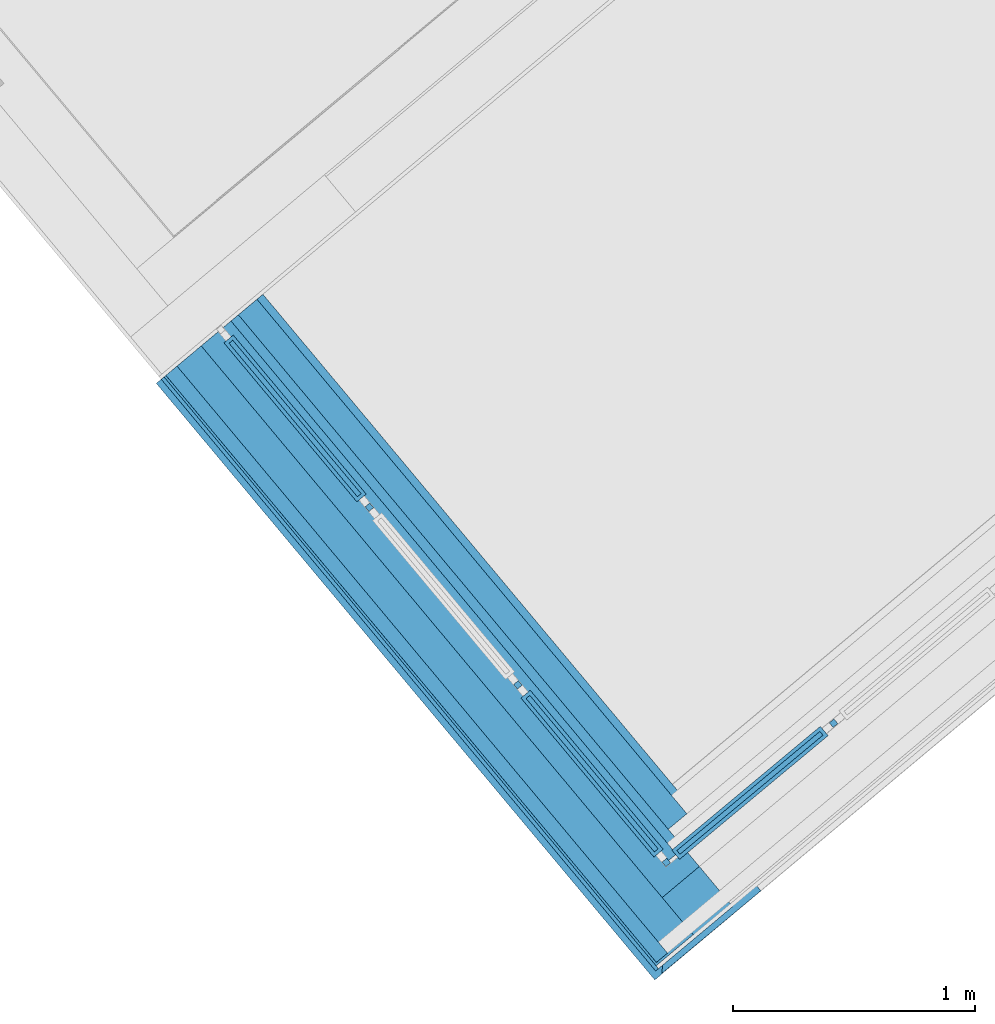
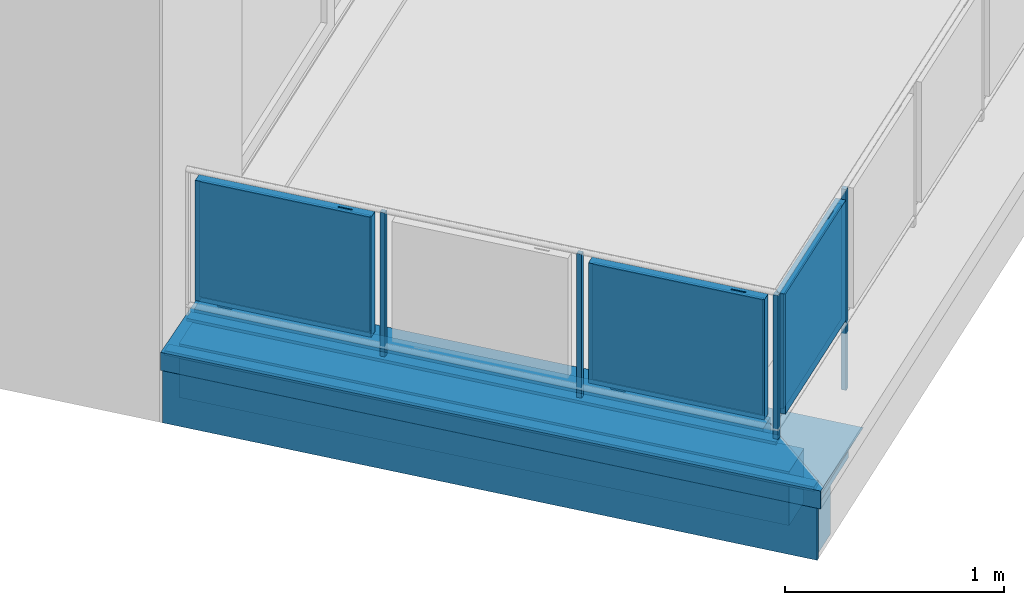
# One storey, part 9 of 47: 19 building element parts, 2 elements without a shape of their own.
"""IFC4 building model written with IfcOpenShell, lengths in metres."""

import ifcopenshell
import ifcopenshell.guid

model = None  # the IFC model being written
_history = None  # IfcOwnerHistory: only IFC2X3 demands one
_inside = {}  # id of a spatial element -> (the spatial element, [elements in it])
_under = {}  # id of a project, library or spatial element -> (it, [spatial elements below it])
_declared = {}  # id of a project -> (the project, [libraries it declares])
_typed = {}  # id of a type object -> (the type object, [elements of that type])
_made_of = {}  # id of a material, layer set ... -> (it, [elements and type objects made of it])


def new_model(schema):
    """Start an empty IFC model of exactly this schema.

    Asked for "IFC4X3", IfcOpenShell would pick the latest addendum, in which some entities
    have other attributes; the version numbers below select the first issue.
    IFC2X3 requires an IfcOwnerHistory on every rooted entity: one is made here for all.
    """
    global model, _history
    if schema == "IFC4X3":
        model = ifcopenshell.file(schema_version=(4, 3, 0, 0))
    else:
        model = ifcopenshell.file(schema=schema)
    _inside.clear()
    _under.clear()
    _declared.clear()
    _typed.clear()
    _made_of.clear()
    _history = None
    if model.schema == "IFC2X3":
        org = make("IfcOrganization", Name="unknown")
        user = make(
            "IfcPersonAndOrganization",
            ThePerson=make("IfcPerson", FamilyName="unknown"),
            TheOrganization=org,
        )
        app = make(
            "IfcApplication",
            ApplicationDeveloper=org,
            Version="unknown",
            ApplicationFullName="unknown",
            ApplicationIdentifier="unknown",
        )
        _history = make(
            "IfcOwnerHistory",
            OwningUser=user,
            OwningApplication=app,
            ChangeAction="ADDED",
            CreationDate=0,
        )
    return model


def make(cls, **values):
    """One entity of the class cls with the attributes given. An attribute that is None is left unset."""
    return model.create_entity(
        cls, **{name: value for name, value in values.items() if value is not None}
    )


def entity(cls, *values):
    """Any entity or typed value of the class cls, its attributes in the order of the schema. None: left unset."""
    e = model.create_entity(cls)
    for i, value in enumerate(values):
        if value is not None:
            e[i] = value
    return e


def rooted(cls, **values):
    """An entity with a GlobalId (a new one), such as an element, a storey or a relation."""
    return make(cls, GlobalId=ifcopenshell.guid.new(), OwnerHistory=_history, **values)


def si_unit(unit_type, name, prefix=None):
    """IfcSIUnit, for example si_unit("LENGTHUNIT", "METRE", prefix="MILLI")."""
    return make("IfcSIUnit", UnitType=unit_type, Prefix=prefix, Name=name)


def converted_unit(unit_type, name, factor, base, dimensions=None, offset=None):
    """IfcConversionBasedUnit, such as the inch: factor (a typed value) times the base unit."""
    return make(
        "IfcConversionBasedUnit"
        if offset is None
        else "IfcConversionBasedUnitWithOffset",
        ConversionOffset=offset,
        Dimensions=None
        if dimensions is None
        else entity("IfcDimensionalExponents", *dimensions),
        UnitType=unit_type,
        Name=name,
        ConversionFactor=make(
            "IfcMeasureWithUnit", ValueComponent=factor, UnitComponent=base
        ),
    )


def derived_unit(unit_type, elements):
    """IfcDerivedUnit: a product of units, each with its exponent."""
    return make(
        "IfcDerivedUnit",
        Elements=[
            make("IfcDerivedUnitElement", Unit=unit, Exponent=power)
            for unit, power in elements
        ],
        UnitType=unit_type,
    )


def assignment(units):
    """IfcUnitAssignment: the units of a project."""
    return None if units is None else make("IfcUnitAssignment", Units=units)


def point(xyz):
    """IfcCartesianPoint."""
    return None if xyz is None else make("IfcCartesianPoint", Coordinates=xyz)


def direction(xyz):
    """IfcDirection."""
    return None if xyz is None else make("IfcDirection", DirectionRatios=xyz)


def frame(location, z_axis=None, x_axis=None):
    """IfcAxis2Placement3D, a coordinate frame: its origin and axes. An axis left out is left unset."""
    return make(
        "IfcAxis2Placement3D",
        Location=point(location),
        Axis=direction(z_axis),
        RefDirection=direction(x_axis),
    )


def origin_with_axes():
    """The frame at (0, 0, 0) with the z axis (0, 0, 1) and the x axis (1, 0, 0) written out."""
    return frame((0.0, 0.0, 0.0), z_axis=(0.0, 0.0, 1.0), x_axis=(1.0, 0.0, 0.0))


def place(relative_to, where):
    """IfcLocalPlacement: puts the frame where relative to a parent placement (None: the world)."""
    return make(
        "IfcLocalPlacement", PlacementRelTo=relative_to, RelativePlacement=where
    )


def context(
    kind, dimensions, precision=None, world=None, true_north=None, identifier=None
):
    """IfcGeometricRepresentationContext, for example the 3D "Model" context."""
    return make(
        "IfcGeometricRepresentationContext",
        ContextIdentifier=identifier,
        ContextType=kind,
        CoordinateSpaceDimension=dimensions,
        Precision=precision,
        WorldCoordinateSystem=world,
        TrueNorth=true_north,
    )


def subcontext(parent, identifier, kind, view, scale=None):
    """IfcGeometricRepresentationSubContext, for example "Body" below "Model"."""
    return make(
        "IfcGeometricRepresentationSubContext",
        ContextIdentifier=identifier,
        ContextType=kind,
        ParentContext=parent,
        TargetScale=scale,
        TargetView=view,
    )


def project(units=None, contexts=None):
    """IfcProject with its units and contexts."""
    return rooted(
        "IfcProject",
        Name="project",
        RepresentationContexts=contexts,
        UnitsInContext=assignment(units),
    )


def spatial(cls, under=None, at=None, **own):
    """A site, building, storey or space (cls), placed at a placement, below another one or the project."""
    s = rooted(cls, ObjectPlacement=at, **own)
    if under is not None:
        _under.setdefault(under.id(), (under, []))[1].append(s)
    return s


def point_list(points):
    """IfcCartesianPointList2D or 3D."""
    cls = (
        "IfcCartesianPointList2D" if len(points[0]) == 2 else "IfcCartesianPointList3D"
    )
    return make(cls, CoordList=points)


def polygons(points, faces, closed=None, point_numbers=None):
    """IfcPolygonalFaceSet: a face is its outer loop, then its inner loops; points numbered from 1."""
    made = []
    for loops in faces:
        if len(loops) == 1:
            made.append(make("IfcIndexedPolygonalFace", CoordIndex=loops[0]))
        else:
            made.append(
                make(
                    "IfcIndexedPolygonalFaceWithVoids",
                    CoordIndex=loops[0],
                    InnerCoordIndices=loops[1:],
                )
            )
    return make(
        "IfcPolygonalFaceSet",
        Coordinates=point_list(points),
        Closed=closed,
        Faces=made,
        PnIndex=point_numbers,
    )


def shape(context_of_items, identifier, shape_type, items):
    """IfcShapeRepresentation: the items that make up one representation, for example the "Body"."""
    return make(
        "IfcShapeRepresentation",
        ContextOfItems=context_of_items,
        RepresentationIdentifier=identifier,
        RepresentationType=shape_type,
        Items=items,
    )


def material(Name=None, Category=None):
    """IfcMaterial."""
    return make("IfcMaterial", Name=Name, Category=Category)


def made_of(thing, what):
    """Note that an element or type object is made of a material, layer set ...; save() writes the relation."""
    if what is not None:
        _made_of.setdefault(what.id(), (what, []))[1].append(thing)
    return thing


def type_object(cls, material=None, **own):
    """A type object (cls), such as IfcWallType, which elements share."""
    return made_of(rooted(cls, **own), material)


def element(
    cls,
    number,
    at=None,
    inside=None,
    cuts=None,
    type_object=None,
    material=None,
    context=None,
    identifier="Body",
    shape_type=None,
    held_by="IfcProductDefinitionShape",
    body=None,
    shapes=None,
    **own,
):
    """One element of the class cls, such as IfcWall. Its Tag is "e" and its number.

    at: its placement. inside: the storey or other place that contains it. cuts: it is an
    opening in that element (IfcRelVoidsElement). A single representation is given by context,
    identifier, shape_type and body (its items); several are given by shapes. held_by: the class
    of the entity that holds the representations. save() writes the other relations.
    """
    e = rooted(cls, Tag="e%d" % number, ObjectPlacement=at, **own)
    if body is not None:
        shapes = [shape(context, identifier, shape_type, body)]
    if shapes is not None:
        e.Representation = make(held_by, Representations=shapes)
    if inside is not None:
        _inside.setdefault(inside.id(), (inside, []))[1].append(e)
    if cuts is not None:
        rooted(
            "IfcRelVoidsElement", RelatingBuildingElement=cuts, RelatedOpeningElement=e
        )
    if type_object is not None:
        _typed.setdefault(type_object.id(), (type_object, []))[1].append(e)
    return made_of(e, material)


def aggregate(whole, parts):
    """IfcRelAggregates: a whole, such as a stair, and the parts it consists of."""
    return rooted("IfcRelAggregates", RelatingObject=whole, RelatedObjects=parts)


def save(model, path):
    """Write the relations noted so far, then the file.

    IfcRelAggregates (storeys below a building ...), IfcRelContainedInSpatialStructure (elements
    in a storey), IfcRelDefinesByType, IfcRelAssociatesMaterial and IfcRelDeclares: one each for
    every whole, place, type object, material and project.
    """
    for whole, parts in _under.values():
        aggregate(whole, parts)
    for where, things in _inside.values():
        rooted(
            "IfcRelContainedInSpatialStructure",
            RelatedElements=things,
            RelatingStructure=where,
        )
    for kind, things in _typed.values():
        rooted("IfcRelDefinesByType", RelatedObjects=things, RelatingType=kind)
    for what, things in _made_of.values():
        rooted("IfcRelAssociatesMaterial", RelatedObjects=things, RelatingMaterial=what)
    for by, libraries in _declared.values():
        rooted("IfcRelDeclares", RelatingContext=by, RelatedDefinitions=libraries)
    model.write(path)


model = new_model("IFC4")

# Units and contexts
model_context = context("Model", 3, precision=1e-05, world=origin_with_axes(), true_north=direction((0.0, 1.0)))
body_context = subcontext(model_context, "Body", "Model", "MODEL_VIEW")
ifc_project = project(units=[si_unit("LENGTHUNIT", "METRE"), si_unit("AREAUNIT", "SQUARE_METRE"), si_unit("VOLUMEUNIT", "CUBIC_METRE"), converted_unit("PLANEANGLEUNIT", "DEGREE", entity("IfcPlaneAngleMeasure", 0.0174532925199), si_unit("PLANEANGLEUNIT", "RADIAN"), dimensions=[0, 0, 0, 0, 0, 0, 0]), converted_unit("TIMEUNIT", "Year", entity("IfcTimeMeasure", 31556926.0), si_unit("TIMEUNIT", "SECOND"), dimensions=[0, 0, 1, 0, 0, 0, 0]), si_unit("MASSUNIT", "GRAM", prefix="KILO"), si_unit("THERMODYNAMICTEMPERATUREUNIT", "DEGREE_CELSIUS"), si_unit("LUMINOUSINTENSITYUNIT", "LUMEN"), si_unit("ENERGYUNIT", "JOULE", prefix="MEGA"), derived_unit("THERMALCONDUCTANCEUNIT", [(si_unit("POWERUNIT", "WATT"), 1), (si_unit("LENGTHUNIT", "METRE"), -1), (si_unit("THERMODYNAMICTEMPERATUREUNIT", "KELVIN"), -1)]), derived_unit("SPECIFICHEATCAPACITYUNIT", [(si_unit("ENERGYUNIT", "JOULE"), 1), (si_unit("MASSUNIT", "GRAM", prefix="KILO"), -1), (si_unit("THERMODYNAMICTEMPERATUREUNIT", "KELVIN"), -1)]), derived_unit("MASSDENSITYUNIT", [(si_unit("MASSUNIT", "GRAM", prefix="KILO"), 1), (si_unit("VOLUMEUNIT", "CUBIC_METRE"), -1)])], contexts=[model_context])

# Site, building, storey
site_placement = place(None, frame((-0.00153261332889, -0.00661245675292, 0.0), z_axis=(0.0, 0.0, 1.0), x_axis=(1.0, 0.0, 0.0)))
site = spatial("IfcSite", under=ifc_project, at=site_placement, Name="Site", CompositionType="ELEMENT")
building_placement = place(site_placement, origin_with_axes())
building = spatial("IfcBuilding", under=site, at=building_placement, Name="Building", CompositionType="ELEMENT")
storey_placement = place(building_placement, frame((0.0, 0.0, 8.66), z_axis=(0.0, 0.0, 1.0), x_axis=(1.0, 0.0, 0.0)))
storey = spatial("IfcBuildingStorey", under=building, at=storey_placement, Name="DG2", CompositionType="ELEMENT", Elevation=8.66)

# Wall, building element parts
wall_type = type_object("IfcWallType", Name="Bauteil - Attika Terrasse 1.DG 574 x 410", PredefinedType="NOTDEFINED")
wall_placement = place(storey_placement, frame((-3.13402571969, 12.7128231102, -0.2), z_axis=(0.0, 0.0, 1.0), x_axis=(0.641209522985, -0.767365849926, 0.0)))
wall = element("IfcWall", 1, at=wall_placement, inside=storey, type_object=wall_type, Name="Wand-004", PredefinedType="NOTDEFINED")
ifc_material_1 = material(Name="Stahl")
building_element_part_1_placement = place(wall_placement, origin_with_axes())
building_element_part_1 = element("IfcBuildingElementPart", 2, at=building_element_part_1_placement, material=ifc_material_1, Name="Stahl", PredefinedType="NOTDEFINED", context=body_context, shape_type="Tessellation", body=[
    polygons([(3.20965495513, -0.241500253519, 0.510007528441), (3.20869704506, -0.240542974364, 0.50905023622), (3.2096537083, -0.239585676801, 0.510007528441), (0.0, -0.241500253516, 0.510007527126), (0.0, -0.240542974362, 0.509050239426), (0.0, -0.231373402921, 0.518219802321), (3.20143607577, -0.23137340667, 0.518219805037), (3.20829902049, -0.238231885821, 0.511361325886), (3.20965282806, -0.238231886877, 0.511361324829), (3.20965406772, -0.240146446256, 0.51136132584), (3.20965407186, -0.240152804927, 0.608602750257), (3.20962970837, -0.202730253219, 0.608602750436), (3.20965495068, -0.241500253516, 0.610006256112), (0.0, -0.241500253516, 0.610006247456), (0.0, 0.332051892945, 0.589243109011), (0.0, 0.332051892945, 0.489652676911), (0.0, 0.331094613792, 0.488695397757), (0.0, 0.321878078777, 0.497911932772), (0.0, 0.32288233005, 0.498822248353), (0.0, 0.330698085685, 0.491006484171), (0.0, 0.330698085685, 0.587937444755), (0.0, -0.239276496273, 0.608570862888), (0.0, -0.240152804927, 0.608602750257), (0.0, -0.240146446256, 0.51136132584), (0.0, -0.232283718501, 0.519224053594), (3.20043242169, -0.23228372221, 0.519224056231), (3.20830026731, -0.24014644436, 0.511361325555), (3.20830663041, -0.240152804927, 0.608602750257), (3.20828225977, -0.202730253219, 0.608602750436), (3.20740537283, -0.201849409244, 0.608570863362), (2.67312039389, 0.332051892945, 0.589243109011), (2.63708299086, 0.332051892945, 0.587938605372), (2.63708298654, 0.332051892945, 0.586106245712), (2.63708298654, 0.332051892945, 0.584015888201), (2.63708298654, 0.332051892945, 0.575979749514), (2.63708298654, 0.332051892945, 0.573880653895), (2.63708298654, 0.332051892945, 0.567947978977), (2.63708298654, 0.332051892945, 0.559999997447), (2.63708298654, 0.332051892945, 0.519224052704), (2.63708298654, 0.332051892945, 0.511361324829), (2.63708298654, 0.332051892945, 0.50905023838), (2.63708298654, 0.332051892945, 0.499999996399), (2.63708298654, 0.332051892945, 0.498822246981), (2.63708298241, 0.332051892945, 0.491006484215), (2.63899754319, 0.332051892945, 0.49100648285), (2.63764373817, 0.332051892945, 0.489652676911), (2.63668708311, 0.331094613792, 0.488695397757), (2.6389996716, 0.328783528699, 0.49100648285), (2.64590961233, 0.32187807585, 0.497911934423), (2.64490470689, 0.322882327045, 0.498822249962), (2.6459083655, 0.323792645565, 0.497911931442), (2.63899842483, 0.330698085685, 0.491006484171), (2.63708386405, 0.330698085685, 0.491006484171), (2.63708386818, 0.330698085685, 0.498822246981), (2.63708386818, 0.330698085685, 0.499999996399), (2.63708386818, 0.330698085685, 0.50905023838), (2.63708386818, 0.330698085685, 0.511361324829), (2.63708386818, 0.330698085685, 0.519224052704), (2.63708386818, 0.330698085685, 0.559999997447), (2.63708386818, 0.330698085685, 0.567947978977), (2.63708386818, 0.330698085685, 0.573880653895), (2.63708386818, 0.330698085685, 0.575979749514), (2.63708386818, 0.330698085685, 0.584015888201), (2.63708386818, 0.330698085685, 0.586106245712), (2.63708391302, 0.330698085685, 0.587937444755), (3.20742974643, -0.239276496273, 0.608570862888), (2.63708389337, 0.330666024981, 0.587938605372)], [[[1, 2, 3]], [[1, 4, 5, 2]], [[2, 5, 6, 7, 8, 9, 3]], [[1, 3, 9, 10, 11, 12, 13]], [[4, 1, 13, 14]], [[5, 4, 14, 15, 16, 17, 18, 19, 20, 21, 22, 23, 24, 25, 6]], [[25, 26, 7, 6]], [[26, 27, 8, 7]], [[27, 10, 9, 8]], [[28, 11, 10, 27, 24, 23]], [[11, 28, 29, 12]], [[14, 13, 12, 29, 30, 31, 15]], [[16, 15, 31, 32, 33, 34, 35, 36, 37, 38, 39, 40, 41, 42, 43, 44, 45, 46]], [[17, 16, 46, 47]], [[18, 17, 47, 48, 49]], [[19, 18, 49, 50]], [[20, 19, 50, 51, 52, 53]], [[21, 20, 53, 54, 55, 56, 57, 58, 59, 60, 61, 62, 63, 64, 65]], [[66, 22, 21, 65, 67]], [[66, 28, 23, 22]], [[27, 26, 25, 24]], [[28, 66, 30, 29]], [[30, 66, 67, 65, 32, 31]], [[65, 64, 33, 32]], [[64, 63, 34, 33]], [[63, 62, 35, 34]], [[62, 61, 36, 35]], [[61, 60, 37, 36]], [[60, 59, 38, 37]], [[59, 58, 39, 38]], [[58, 57, 40, 39]], [[57, 56, 41, 40]], [[56, 55, 42, 41]], [[55, 54, 43, 42]], [[53, 44, 43, 54]], [[44, 53, 52, 45]], [[52, 48, 47, 46, 45]], [[51, 49, 48, 52]], [[49, 51, 50]]], closed=True),
])
ifc_material_2 = material(Name="Holzwerkstoff")
building_element_part_2_placement = place(wall_placement, origin_with_axes())
building_element_part_2 = element("IfcBuildingElementPart", 3, at=building_element_part_2_placement, material=ifc_material_2, Name="Holzwerkstoff", PredefinedType="NOTDEFINED", context=body_context, shape_type="Tessellation", body=[
    polygons([(3.20742974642, -0.239276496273, 0.608570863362), (3.207779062, 0.330698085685, 0.587938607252), (0.0, 0.330698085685, 0.587938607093), (0.0, -0.239276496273, 0.608570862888), (3.20815071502, -0.239996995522, 0.587938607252), (3.20778206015, 0.33069508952, 0.587852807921), (3.15776701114, 0.330634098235, 0.586106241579), (3.09790711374, 0.330561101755, 0.584015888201), (2.86778226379, 0.330280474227, 0.575979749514), (2.8076720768, 0.330207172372, 0.573880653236), (2.63778240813, 0.329999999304, 0.567947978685), (0.0, 0.329999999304, 0.567947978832), (0.0, 0.160110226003, 0.573880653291), (0.0, 0.100000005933, 0.575979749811), (0.0, -0.130124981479, 0.584015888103), (0.0, -0.189984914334, 0.586106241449), (0.0, -0.239999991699, 0.587852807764), (3.20815371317, -0.239999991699, 0.587852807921), (3.15810605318, -0.189984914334, 0.586106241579), (3.09820712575, -0.130124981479, 0.584015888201), (2.86793222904, 0.100000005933, 0.575979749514), (2.80778284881, 0.160110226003, 0.573880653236)], [[[1, 2, 3, 4]], [[5, 2, 1]], [[3, 2, 6, 7, 8, 9, 10, 11, 12]], [[4, 3, 12, 13, 14, 15, 16, 17]], [[5, 1, 4, 17, 18]], [[2, 5, 18, 6]], [[18, 19, 7, 6]], [[20, 8, 7, 19]], [[8, 20, 21, 9]], [[21, 22, 10, 9]], [[22, 11, 10]], [[11, 22, 13, 12]], [[21, 14, 13, 22]], [[20, 15, 14, 21]], [[20, 19, 16, 15]], [[17, 16, 19, 18]]], closed=True),
])
ifc_material_3 = material(Name="EPS 1")
building_element_part_3_placement = place(wall_placement, origin_with_axes())
building_element_part_3 = element("IfcBuildingElementPart", 4, at=building_element_part_3_placement, material=ifc_material_3, Name="EPS 1", PredefinedType="NOTDEFINED", context=body_context, shape_type="Tessellation", body=[
    polygons([(2.76786708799, 0.2, 0.559999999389), (2.76780196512, 0.3, 0.559999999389), (0.0, 0.3, 0.560000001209), (0.0, 0.2, 0.560000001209), (2.76780196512, 0.3, 0.519224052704), (2.76786708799, 0.2, 0.519224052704), (2.76780196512, 0.3, 0.511361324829), (2.76780196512, 0.3, 0.50905023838), (2.76780196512, 0.299999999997, 0.500000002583), (2.76780196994, 0.3, 0.498822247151), (2.76780196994, 0.3, 0.49100648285), (2.76780196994, 0.3, 0.488695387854), (2.76780196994, 0.3, 0.335), (0.0, 0.3, 0.335), (0.0, 0.2, 0.335), (2.76786709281, 0.2, 0.335), (2.76786709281, 0.2, 0.488695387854), (2.76786709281, 0.2, 0.49100648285), (2.76786709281, 0.2, 0.498822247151), (2.76786708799, 0.199999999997, 0.500000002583), (2.76786708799, 0.2, 0.50905023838), (2.76786708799, 0.2, 0.511361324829)], [[[1, 2, 3, 4]], [[5, 2, 1, 6]], [[2, 5, 7, 8, 9, 10, 11, 12, 13, 14, 3]], [[15, 4, 3, 14]], [[6, 1, 4, 15, 16, 17, 18, 19, 20, 21, 22]], [[5, 6, 22, 7]], [[7, 22, 21, 8]], [[8, 21, 20, 9]], [[9, 20, 19, 10]], [[10, 19, 18, 11]], [[11, 18, 17, 12]], [[12, 17, 16, 13]], [[13, 16, 15, 14]]], closed=True),
])
ifc_material_4 = material(Name="Vollholz")
building_element_part_4_placement = place(wall_placement, origin_with_axes())
building_element_part_4 = element("IfcBuildingElementPart", 5, at=building_element_part_4_placement, material=ifc_material_4, Name="Vollholz", PredefinedType="NOTDEFINED", context=body_context, shape_type="Tessellation", body=[
    polygons([(2.86793222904, 0.1, 0.575979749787), (2.86789308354, 0.160110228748, 0.573880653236), (0.0, 0.160110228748, 0.573880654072), (0.0, 0.1, 0.575979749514), (2.86793222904, 0.1, 0.573880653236), (2.86789311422, 0.160063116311, 0.567947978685), (2.86789315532, 0.16, 0.559999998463), (0.0, 0.16, 0.560000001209), (0.0, 0.1, 0.560000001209), (2.86793222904, 0.1, 0.559999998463), (2.86793222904, 0.1, 0.567947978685)], [[[1, 2, 3, 4]], [[5, 2, 1]], [[2, 6, 7, 8, 3]], [[8, 9, 4, 3]], [[5, 1, 4, 9, 10, 11]], [[2, 5, 11, 6]], [[6, 11, 10, 7]], [[7, 10, 9, 8]]], closed=True),
])
ifc_material_5 = material(Name="Stahlbeton")
building_element_part_5_placement = place(wall_placement, origin_with_axes())
building_element_part_5 = element("IfcBuildingElementPart", 6, at=building_element_part_5_placement, material=ifc_material_5, Name="Stahlbeton", PredefinedType="NOTDEFINED", context=body_context, shape_type="Tessellation", body=[
    polygons([(2.96799738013, 1.82835346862e-09, 0.499999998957), (2.96786713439, 0.199999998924, 0.499999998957), (0.0, 0.199999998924, 0.500000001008), (0.0, 1.82835524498e-09, 0.500000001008), (2.96786713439, 0.199999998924, 0.498822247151), (2.96799738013, 1.82835524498e-09, 0.498822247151), (2.96786713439, 0.199999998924, 0.49100648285), (2.96786713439, 0.199999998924, 0.488695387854), (2.96786713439, 0.199999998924, 0.335), (0.0, 0.199999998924, 0.335000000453), (0.0, 1.82835524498e-09, 0.2), (0.0, 0.199999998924, 0.2), (2.96799738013, 1.8283543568e-09, 0.2), (2.96799738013, 1.8283543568e-09, 0.335), (2.96799738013, 1.82835524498e-09, 0.488695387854), (2.96799738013, 1.82835524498e-09, 0.49100648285), (2.96786713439, 0.199999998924, 0.2)], [[[1, 2, 3, 4]], [[5, 2, 1, 6]], [[2, 5, 7, 8, 9, 10, 3]], [[11, 4, 3, 10, 12]], [[6, 1, 4, 11, 13, 14, 15, 16]], [[5, 6, 16, 7]], [[7, 16, 15, 8]], [[8, 15, 14, 9]], [[9, 17, 12, 10]], [[17, 13, 11, 12]], [[9, 14, 13, 17]]], closed=True),
])
building_element_part_6_placement = place(wall_placement, origin_with_axes())
building_element_part_6 = element("IfcBuildingElementPart", 7, at=building_element_part_6_placement, material=ifc_material_3, Name="EPS 1", PredefinedType="NOTDEFINED", context=body_context, shape_type="Tessellation", body=[
    polygons([(3.16812762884, -0.19999996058, 0.499999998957), (3.16799738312, -2.39910313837e-10, 0.499999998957), (0.0, -2.39910313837e-10, 0.499999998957), (0.0, -0.19999996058, 0.499999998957), (3.16799738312, -2.39910313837e-10, 0.498822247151), (3.16812762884, -0.19999996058, 0.498822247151), (3.16799738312, -2.39910313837e-10, 0.49100648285), (3.16799738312, -2.39910313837e-10, 0.488695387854), (3.16799738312, -2.39910313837e-10, 0.335), (3.16799738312, -2.39909425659e-10, 0.2), (0.0, -2.39910313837e-10, 0.2), (0.0, -0.19999996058, 0.2), (3.16812762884, -0.19999996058, 0.2), (3.16812762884, -0.19999996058, 0.335), (3.16812762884, -0.19999996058, 0.488695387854), (3.16812762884, -0.19999996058, 0.49100648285)], [[[1, 2, 3, 4]], [[5, 2, 1, 6]], [[2, 5, 7, 8, 9, 10, 11, 3]], [[12, 4, 3, 11]], [[6, 1, 4, 12, 13, 14, 15, 16]], [[5, 6, 16, 7]], [[7, 16, 15, 8]], [[8, 15, 14, 9]], [[9, 14, 13, 10]], [[10, 13, 12, 11]]], closed=True),
])
building_element_part_7_placement = place(wall_placement, origin_with_axes())
building_element_part_7 = element("IfcBuildingElementPart", 8, at=building_element_part_7_placement, material=ifc_material_4, Name="Vollholz", PredefinedType="NOTDEFINED", context=body_context, shape_type="Tessellation", body=[
    polygons([(3.15810605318, -0.189984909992, 0.586106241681), (3.158078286, -0.130124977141, 0.584015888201), (0.0, -0.130124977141, 0.584015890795), (0.0, -0.189984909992, 0.586106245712), (3.15811727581, -0.189996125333, 0.584015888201), (3.15812140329, -0.130124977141, 0.575979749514), (3.15813266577, -0.130124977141, 0.573880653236), (3.15816449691, -0.130124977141, 0.567947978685), (3.15820714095, -0.130124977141, 0.559999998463), (0.0, -0.130124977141, 0.560000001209), (0.0, -0.190124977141, 0.560000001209), (3.15824621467, -0.190124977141, 0.559999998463), (3.15820354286, -0.190082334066, 0.567947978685), (3.15817169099, -0.190050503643, 0.573880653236), (3.15816042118, -0.190039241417, 0.575979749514)], [[[1, 2, 3, 4]], [[5, 2, 1]], [[2, 6, 7, 8, 9, 10, 3]], [[10, 11, 4, 3]], [[5, 1, 4, 11, 12, 13, 14, 15]], [[2, 5, 15, 6]], [[6, 15, 14, 7]], [[7, 14, 13, 8]], [[8, 13, 12, 9]], [[9, 12, 11, 10]]], closed=True),
])
ifc_material_6 = material(Name="Zementputz")
building_element_part_8_placement = place(wall_placement, origin_with_axes())
building_element_part_8 = element("IfcBuildingElementPart", 9, at=building_element_part_8_placement, material=ifc_material_6, Name="Zementputz", PredefinedType="NOTDEFINED", context=body_context, shape_type="Tessellation", body=[
    polygons([(3.18313740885, -0.214999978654, 0.499999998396), (3.18312764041, -0.199999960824, 0.499999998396), (0.0, -0.199999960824, 0.499999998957), (0.0, -0.214999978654, 0.499999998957), (3.18312723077, -0.199999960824, 0.2), (3.1831369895, -0.214999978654, 0.2), (0.0, -0.199999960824, 0.2), (0.0, -0.214999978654, 0.2)], [[[1, 2, 3, 4]], [[5, 2, 1, 6]], [[2, 5, 7, 3]], [[3, 7, 8, 4]], [[6, 1, 4, 8]], [[5, 6, 8, 7]]], closed=True),
])
ifc_material_7 = material(Name="Brettschichtholz")
building_element_part_9_placement = place(wall_placement, origin_with_axes())
building_element_part_9 = element("IfcBuildingElementPart", 10, at=building_element_part_9_placement, material=ifc_material_7, Name="Brettschichtholz", PredefinedType="NOTDEFINED", context=body_context, shape_type="Tessellation", body=[
    polygons([(3.18289321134, 0.159999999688, 0.559999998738), (3.18286716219, 0.200000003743, 0.559999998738), (0.0, 0.200000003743, 0.559999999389), (0.0, 0.159999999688, 0.559999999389), (3.18286714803, 0.200000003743, 0.519224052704), (3.18293228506, 0.100000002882, 0.559999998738), (3.18308214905, -0.130124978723, 0.559999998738), (3.18312122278, -0.190124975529, 0.559999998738), (3.18313742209, -0.214999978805, 0.559999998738), (3.18313740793, -0.214999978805, 0.519224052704), (3.18286714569, 0.200000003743, 0.511361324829), (3.18286714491, 0.20000000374, 0.50905023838), (3.18286714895, 0.200000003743, 0.499999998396), (0.0, 0.200000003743, 0.500000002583), (0.0, -0.214999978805, 0.499999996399), (0.0, -0.214999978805, 0.559999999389), (0.0, -0.190124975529, 0.559999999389), (0.0, -0.130124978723, 0.559999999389), (0.0, 0.100000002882, 0.559999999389), (3.18313740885, -0.214999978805, 0.499999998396), (3.18313740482, -0.214999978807, 0.50905023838), (3.18313740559, -0.214999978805, 0.511361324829)], [[[1, 2, 3, 4]], [[5, 2, 1, 6, 7, 8, 9, 10]], [[2, 5, 11, 12, 13, 14, 3]], [[15, 16, 17, 18, 19, 4, 3, 14]], [[6, 1, 4, 19]], [[7, 6, 19, 18]], [[8, 7, 18, 17]], [[9, 8, 17, 16]], [[10, 9, 16, 15, 20, 21, 22]], [[5, 10, 22, 11]], [[11, 22, 21, 12]], [[12, 21, 20, 13]], [[14, 13, 20, 15]]], closed=True),
])
aggregate(wall, [building_element_part_1, building_element_part_2, building_element_part_3, building_element_part_4, building_element_part_5, building_element_part_6, building_element_part_7, building_element_part_8, building_element_part_9])

# Railing, building element parts
railing_type = type_object("IfcRailingType", Name="Geländerart", PredefinedType="NOTDEFINED")
railing_placement = place(storey_placement, frame((-3.01466342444, 12.8116891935, 0.38), z_axis=(0.0, 0.0, 1.0), x_axis=(1.0, 0.0, 0.0)))
railing = element("IfcRailing", 11, at=railing_placement, inside=storey, type_object=railing_type, Name="Geländer - 001", PredefinedType="NOTDEFINED")
ifc_material_8 = material(Name="Aluminium")
building_element_part_10_placement = place(railing_placement, origin_with_axes())
building_element_part_10 = element("IfcBuildingElementPart", 12, at=building_element_part_10_placement, material=ifc_material_8, Name="Aluminium", PredefinedType="NOTDEFINED", context=body_context, shape_type="Tessellation", body=[
    polygons([(1.79932161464, -2.24912396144, -0.3), (1.81849975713, -2.23308654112, -0.3), (1.81849975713, -2.23308654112, 0.82), (1.79932161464, -2.24912396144, 0.82), (1.78328419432, -2.22994581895, -0.3), (1.80246233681, -2.21390839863, -0.3), (1.80246233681, -2.21390839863, 0.82), (1.78328419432, -2.22994581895, 0.82)], [[[1, 2, 3, 4]], [[1, 5, 6, 2]], [[2, 6, 7, 3]], [[4, 3, 7, 8]], [[5, 1, 4, 8]], [[6, 5, 8, 7]]], closed=True),
])
ifc_material_9 = material(Name="Profilit")
building_element_part_11_placement = place(railing_placement, origin_with_axes())
building_element_part_11 = element("IfcBuildingElementPart", 13, at=building_element_part_11_placement, material=ifc_material_9, Name="Profilit", PredefinedType="NOTDEFINED", context=body_context, shape_type="Tessellation", body=[
    polygons([(0.540700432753, -0.708943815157, 0.135), (0.0110122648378, -0.0755230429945, 0.135), (0.0110122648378, -0.0755230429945, 0.775), (0.540700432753, -0.708943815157, 0.775), (-0.00433024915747, -0.0883529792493, 0.135), (0.525357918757, -0.721773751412, 0.135), (-0.00433024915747, -0.0883529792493, 0.775), (0.525357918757, -0.721773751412, 0.775)], [[[1, 2, 3, 4]], [[5, 2, 1, 6]], [[7, 3, 2, 5]], [[4, 3, 7, 8]], [[1, 4, 8, 6]], [[7, 5, 6, 8]]], closed=True),
])
building_element_part_12_placement = place(railing_placement, origin_with_axes())
building_element_part_12 = element("IfcBuildingElementPart", 14, at=building_element_part_12_placement, material=ifc_material_8, Name="Aluminium", PredefinedType="NOTDEFINED", context=body_context, shape_type="Tessellation", body=[
    polygons([(0.0597860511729, -0.14553995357, 0.12), (0.104690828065, -0.199238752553, 0.12), (0.104690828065, -0.199238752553, 0.095), (0.0597860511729, -0.14553995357, 0.095), (0.055950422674, -0.148747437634, 0.12), (0.100855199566, -0.202446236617, 0.12), (0.100855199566, -0.202446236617, 0.095), (0.055950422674, -0.148747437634, 0.095)], [[[1, 2, 3, 4]], [[5, 6, 2, 1]], [[2, 6, 7, 3]], [[4, 3, 7, 8]], [[1, 4, 8, 5]], [[8, 7, 6, 5]]], closed=True),
    polygons([(0.480419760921, -0.648549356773, 0.79), (0.435514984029, -0.594850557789, 0.79), (0.435514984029, -0.594850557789, 0.795), (0.480419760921, -0.648549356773, 0.795), (0.476584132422, -0.651756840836, 0.79), (0.43167935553, -0.598058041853, 0.79), (0.43167935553, -0.598058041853, 0.795), (0.476584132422, -0.651756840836, 0.795)], [[[1, 2, 3, 4]], [[5, 6, 2, 1]], [[2, 6, 7, 3]], [[4, 3, 7, 8]], [[1, 4, 8, 5]], [[8, 7, 6, 5]]], closed=True),
    polygons([(-0.0254595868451, -0.086468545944, 0.12), (0.0128966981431, -0.0543937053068, 0.12), (0.56182977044, -0.710828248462, 0.12), (0.523473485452, -0.7429030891, 0.12), (-0.0126296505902, -0.101811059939, 0.14), (-0.00112276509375, -0.0921886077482, 0.14), (-0.00433024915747, -0.0883529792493, 0.135), (0.0110122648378, -0.0755230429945, 0.135), (0.0142197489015, -0.0793586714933, 0.14), (0.025726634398, -0.0697362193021, 0.14), (0.548999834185, -0.695485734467, 0.14), (0.548999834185, -0.695485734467, 0.77), (0.025726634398, -0.0697362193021, 0.77), (0.025726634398, -0.0697362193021, 0.14), (0.0128966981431, -0.0543937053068, 0.12), (0.0128966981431, -0.0543937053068, 0.79), (0.56182977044, -0.710828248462, 0.79), (0.523473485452, -0.7429030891, 0.79), (-0.0254595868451, -0.086468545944, 0.79), (-0.0254595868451, -0.086468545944, 0.12), (-0.0126296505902, -0.101811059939, 0.14), (-0.0126296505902, -0.101811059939, 0.77), (0.510643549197, -0.727560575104, 0.77), (0.510643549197, -0.727560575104, 0.14), (0.522150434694, -0.717938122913, 0.14), (0.522150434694, -0.717938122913, 0.77), (-0.00112276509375, -0.0921886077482, 0.77), (-0.00112276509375, -0.0921886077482, 0.14), (-0.00433024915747, -0.0883529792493, 0.135), (-0.00433024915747, -0.0883529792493, 0.775), (0.525357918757, -0.721773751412, 0.775), (0.525357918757, -0.721773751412, 0.135), (0.540700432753, -0.708943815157, 0.135), (0.540700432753, -0.708943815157, 0.775), (0.0110122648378, -0.0755230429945, 0.775), (0.0110122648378, -0.0755230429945, 0.135), (0.0142197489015, -0.0793586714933, 0.14), (0.0142197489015, -0.0793586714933, 0.77), (0.537492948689, -0.705108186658, 0.77), (0.537492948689, -0.705108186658, 0.14)], [[[1, 2, 3, 4]], [[1, 5, 6, 7, 8, 9, 10, 2]], [[2, 10, 11, 12, 13, 14, 15, 16, 17, 3]], [[4, 3, 17, 18]], [[5, 1, 4, 18, 19, 20, 21, 22, 23, 24]], [[6, 5, 24, 25]], [[7, 6, 25, 26, 27, 28, 29, 30, 31, 32]], [[8, 7, 32, 33]], [[9, 8, 33, 34, 35, 36, 37, 38, 39, 40]], [[10, 9, 40, 11]], [[11, 40, 39, 12]], [[12, 39, 38, 13]], [[13, 38, 37, 14]], [[20, 15, 14, 37, 36, 29, 28, 21]], [[19, 16, 15, 20]], [[18, 17, 16, 19]], [[27, 22, 21, 28]], [[26, 23, 22, 27]], [[25, 24, 23, 26]], [[35, 30, 29, 36]], [[34, 31, 30, 35]], [[33, 32, 31, 34]]], closed=True),
])
building_element_part_13_placement = place(railing_placement, origin_with_axes())
building_element_part_13 = element("IfcBuildingElementPart", 15, at=building_element_part_13_placement, material=ifc_material_8, Name="Aluminium", PredefinedType="NOTDEFINED", context=body_context, shape_type="Tessellation", body=[
    polygons([(0.573156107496, -0.782829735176, -0.3), (0.59233424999, -0.766792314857, -0.3), (0.59233424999, -0.766792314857, 0.82), (0.573156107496, -0.782829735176, 0.82), (0.557118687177, -0.763651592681, -0.3), (0.576296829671, -0.747614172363, -0.3), (0.576296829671, -0.747614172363, 0.82), (0.557118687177, -0.763651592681, 0.82)], [[[1, 2, 3, 4]], [[1, 5, 6, 2]], [[2, 6, 7, 3]], [[4, 3, 7, 8]], [[5, 1, 4, 8]], [[6, 5, 8, 7]]], closed=True),
])
building_element_part_14_placement = place(railing_placement, origin_with_axes())
building_element_part_14 = element("IfcBuildingElementPart", 16, at=building_element_part_14_placement, material=ifc_material_8, Name="Aluminium", PredefinedType="NOTDEFINED", context=body_context, shape_type="Tessellation", body=[
    polygons([(1.18623886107, -1.51597684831, -0.3), (1.20541700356, -1.49993942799, -0.3), (1.20541700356, -1.49993942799, 0.82), (1.18623886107, -1.51597684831, 0.82), (1.17020144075, -1.49679870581, -0.3), (1.18937958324, -1.48076128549, -0.3), (1.18937958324, -1.48076128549, 0.82), (1.17020144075, -1.49679870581, 0.82)], [[[1, 2, 3, 4]], [[1, 5, 6, 2]], [[2, 6, 7, 3]], [[4, 3, 7, 8]], [[5, 1, 4, 8]], [[6, 5, 8, 7]]], closed=True),
])
building_element_part_15_placement = place(railing_placement, origin_with_axes())
building_element_part_15 = element("IfcBuildingElementPart", 17, at=building_element_part_15_placement, material=ifc_material_9, Name="Profilit", PredefinedType="NOTDEFINED", context=body_context, shape_type="Tessellation", body=[
    polygons([(1.7668659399, -2.17523804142, 0.135), (1.23717777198, -1.54181726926, 0.135), (1.23717777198, -1.54181726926, 0.775), (1.7668659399, -2.17523804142, 0.775), (1.22183525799, -1.55464720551, 0.135), (1.7515234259, -2.18806797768, 0.135), (1.22183525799, -1.55464720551, 0.775), (1.7515234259, -2.18806797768, 0.775)], [[[1, 2, 3, 4]], [[5, 2, 1, 6]], [[7, 3, 2, 5]], [[4, 3, 7, 8]], [[1, 4, 8, 6]], [[7, 5, 6, 8]]], closed=True),
])
building_element_part_16_placement = place(railing_placement, origin_with_axes())
building_element_part_16 = element("IfcBuildingElementPart", 18, at=building_element_part_16_placement, material=ifc_material_8, Name="Aluminium", PredefinedType="NOTDEFINED", context=body_context, shape_type="Tessellation", body=[
    polygons([(1.28595155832, -1.61183417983, 0.12), (1.33085633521, -1.66553297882, 0.12), (1.33085633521, -1.66553297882, 0.095), (1.28595155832, -1.61183417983, 0.095), (1.28211592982, -1.6150416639, 0.12), (1.32702070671, -1.66874046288, 0.12), (1.32702070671, -1.66874046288, 0.095), (1.28211592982, -1.6150416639, 0.095)], [[[1, 2, 3, 4]], [[5, 6, 2, 1]], [[2, 6, 7, 3]], [[4, 3, 7, 8]], [[1, 4, 8, 5]], [[8, 7, 6, 5]]], closed=True),
    polygons([(1.70658526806, -2.11484358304, 0.79), (1.66168049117, -2.06114478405, 0.79), (1.66168049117, -2.06114478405, 0.795), (1.70658526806, -2.11484358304, 0.795), (1.70274963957, -2.1180510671, 0.79), (1.65784486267, -2.06435226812, 0.79), (1.65784486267, -2.06435226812, 0.795), (1.70274963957, -2.1180510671, 0.795)], [[[1, 2, 3, 4]], [[5, 6, 2, 1]], [[2, 6, 7, 3]], [[4, 3, 7, 8]], [[1, 4, 8, 5]], [[8, 7, 6, 5]]], closed=True),
    polygons([(1.2007059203, -1.55276277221, 0.12), (1.23906220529, -1.52068793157, 0.12), (1.78799527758, -2.17712247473, 0.12), (1.74963899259, -2.20919731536, 0.12), (1.21353585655, -1.5681052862, 0.14), (1.22504274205, -1.55848283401, 0.14), (1.22183525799, -1.55464720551, 0.135), (1.23717777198, -1.54181726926, 0.135), (1.24038525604, -1.54565289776, 0.14), (1.25189214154, -1.53603044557, 0.14), (1.77516534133, -2.16177996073, 0.14), (1.77516534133, -2.16177996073, 0.77), (1.25189214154, -1.53603044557, 0.77), (1.25189214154, -1.53603044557, 0.14), (1.23906220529, -1.52068793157, 0.12), (1.23906220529, -1.52068793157, 0.79), (1.78799527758, -2.17712247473, 0.79), (1.74963899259, -2.20919731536, 0.79), (1.2007059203, -1.55276277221, 0.79), (1.2007059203, -1.55276277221, 0.12), (1.21353585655, -1.5681052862, 0.14), (1.21353585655, -1.5681052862, 0.77), (1.73680905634, -2.19385480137, 0.77), (1.73680905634, -2.19385480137, 0.14), (1.74831594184, -2.18423234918, 0.14), (1.74831594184, -2.18423234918, 0.77), (1.22504274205, -1.55848283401, 0.77), (1.22504274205, -1.55848283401, 0.14), (1.22183525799, -1.55464720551, 0.135), (1.22183525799, -1.55464720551, 0.775), (1.7515234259, -2.18806797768, 0.775), (1.7515234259, -2.18806797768, 0.135), (1.7668659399, -2.17523804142, 0.135), (1.7668659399, -2.17523804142, 0.775), (1.23717777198, -1.54181726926, 0.775), (1.23717777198, -1.54181726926, 0.135), (1.24038525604, -1.54565289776, 0.14), (1.24038525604, -1.54565289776, 0.77), (1.76365845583, -2.17140241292, 0.77), (1.76365845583, -2.17140241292, 0.14)], [[[1, 2, 3, 4]], [[1, 5, 6, 7, 8, 9, 10, 2]], [[2, 10, 11, 12, 13, 14, 15, 16, 17, 3]], [[4, 3, 17, 18]], [[5, 1, 4, 18, 19, 20, 21, 22, 23, 24]], [[6, 5, 24, 25]], [[7, 6, 25, 26, 27, 28, 29, 30, 31, 32]], [[8, 7, 32, 33]], [[9, 8, 33, 34, 35, 36, 37, 38, 39, 40]], [[10, 9, 40, 11]], [[11, 40, 39, 12]], [[12, 39, 38, 13]], [[13, 38, 37, 14]], [[20, 15, 14, 37, 36, 29, 28, 21]], [[19, 16, 15, 20]], [[18, 17, 16, 19]], [[27, 22, 21, 28]], [[26, 23, 22, 27]], [[25, 24, 23, 26]], [[35, 30, 29, 36]], [[34, 31, 30, 35]], [[33, 32, 31, 34]]], closed=True),
])
building_element_part_17_placement = place(railing_placement, origin_with_axes())
building_element_part_17 = element("IfcBuildingElementPart", 19, at=building_element_part_17_placement, material=ifc_material_9, Name="Profilit", PredefinedType="NOTDEFINED", context=body_context, shape_type="Tessellation", body=[
    polygons([(2.43477518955, -1.6905843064, 0.135), (1.84443911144, -2.18223487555, 0.135), (1.84443911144, -2.18223487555, 0.775), (2.43477518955, -1.6905843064, 0.775), (1.8572382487, -2.19760309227, 0.135), (2.44757432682, -1.70595252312, 0.135), (1.8572382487, -2.19760309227, 0.775), (2.44757432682, -1.70595252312, 0.775)], [[[1, 2, 3, 4]], [[5, 2, 1, 6]], [[7, 3, 2, 5]], [[4, 3, 7, 8]], [[1, 4, 8, 6]], [[7, 5, 6, 8]]], closed=True),
])
building_element_part_18_placement = place(railing_placement, origin_with_axes())
building_element_part_18 = element("IfcBuildingElementPart", 20, at=building_element_part_18_placement, material=ifc_material_8, Name="Aluminium", PredefinedType="NOTDEFINED", context=body_context, shape_type="Tessellation", body=[
    polygons([(1.91455370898, -2.13360162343, 0.12), (1.9683424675, -2.088804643, 0.12), (1.9683424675, -2.088804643, 0.095), (1.91455370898, -2.13360162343, 0.095), (1.9177534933, -2.13744367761, 0.12), (1.97154225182, -2.09264669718, 0.12), (1.97154225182, -2.09264669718, 0.095), (1.9177534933, -2.13744367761, 0.095)], [[[1, 2, 3, 4]], [[5, 6, 2, 1]], [[2, 6, 7, 3]], [[4, 3, 7, 8]], [[1, 4, 8, 5]], [[8, 7, 6, 5]]], closed=True),
    polygons([(2.37425994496, -1.75074372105, 0.79), (2.32047118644, -1.79554070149, 0.79), (2.32047118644, -1.79554070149, 0.795), (2.37425994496, -1.75074372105, 0.795), (2.37745972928, -1.75458577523, 0.79), (2.32367097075, -1.79938275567, 0.79), (2.32367097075, -1.79938275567, 0.795), (2.37745972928, -1.75458577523, 0.795)], [[[1, 2, 3, 4]], [[5, 6, 2, 1]], [[2, 6, 7, 3]], [[4, 3, 7, 8]], [[1, 4, 8, 5]], [[8, 7, 6, 5]]], closed=True),
    polygons([(1.85531143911, -2.21872860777, 0.12), (1.82331359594, -2.18030806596, 0.12), (2.43670199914, -1.6694587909, 0.12), (2.46869984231, -1.70787933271, 0.12), (1.87067965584, -2.2059294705, 0.14), (1.86108030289, -2.19440330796, 0.14), (1.8572382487, -2.19760309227, 0.135), (1.84443911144, -2.18223487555, 0.135), (1.84828116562, -2.17903509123, 0.14), (1.83868181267, -2.16750892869, 0.14), (2.42133378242, -1.68225792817, 0.14), (2.42133378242, -1.68225792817, 0.77), (1.83868181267, -2.16750892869, 0.77), (1.83868181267, -2.16750892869, 0.14), (1.82331359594, -2.18030806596, 0.12), (1.82331359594, -2.18030806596, 0.79), (2.43670199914, -1.6694587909, 0.79), (2.46869984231, -1.70787933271, 0.79), (1.85531143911, -2.21872860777, 0.79), (1.85531143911, -2.21872860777, 0.12), (1.87067965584, -2.2059294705, 0.14), (1.87067965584, -2.2059294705, 0.77), (2.45333162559, -1.72067846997, 0.77), (2.45333162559, -1.72067846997, 0.14), (2.44373227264, -1.70915230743, 0.14), (2.44373227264, -1.70915230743, 0.77), (1.86108030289, -2.19440330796, 0.77), (1.86108030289, -2.19440330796, 0.14), (1.8572382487, -2.19760309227, 0.135), (1.8572382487, -2.19760309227, 0.775), (2.44757432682, -1.70595252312, 0.775), (2.44757432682, -1.70595252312, 0.135), (2.43477518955, -1.6905843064, 0.135), (2.43477518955, -1.6905843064, 0.775), (1.84443911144, -2.18223487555, 0.775), (1.84443911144, -2.18223487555, 0.135), (1.84828116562, -2.17903509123, 0.14), (1.84828116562, -2.17903509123, 0.77), (2.43093313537, -1.69378409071, 0.77), (2.43093313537, -1.69378409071, 0.14)], [[[1, 2, 3, 4]], [[1, 5, 6, 7, 8, 9, 10, 2]], [[2, 10, 11, 12, 13, 14, 15, 16, 17, 3]], [[4, 3, 17, 18]], [[5, 1, 4, 18, 19, 20, 21, 22, 23, 24]], [[6, 5, 24, 25]], [[7, 6, 25, 26, 27, 28, 29, 30, 31, 32]], [[8, 7, 32, 33]], [[9, 8, 33, 34, 35, 36, 37, 38, 39, 40]], [[10, 9, 40, 11]], [[11, 40, 39, 12]], [[12, 39, 38, 13]], [[13, 38, 37, 14]], [[20, 15, 14, 37, 36, 29, 28, 21]], [[19, 16, 15, 20]], [[18, 17, 16, 19]], [[27, 22, 21, 28]], [[26, 23, 22, 27]], [[25, 24, 23, 26]], [[35, 30, 29, 36]], [[34, 31, 30, 35]], [[33, 32, 31, 34]]], closed=True),
])
building_element_part_19_placement = place(railing_placement, origin_with_axes())
building_element_part_19 = element("IfcBuildingElementPart", 21, at=building_element_part_19_placement, material=ifc_material_8, Name="Aluminium", PredefinedType="NOTDEFINED", context=body_context, shape_type="Tessellation", body=[
    polygons([(2.50872605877, -1.65827689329, -0.3), (2.49272713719, -1.63906662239, -0.3), (2.49272713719, -1.63906662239, 0.82), (2.50872605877, -1.65827689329, 0.82), (2.48951578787, -1.67427581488, -0.3), (2.47351686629, -1.65506554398, -0.3), (2.47351686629, -1.65506554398, 0.82), (2.48951578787, -1.67427581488, 0.82)], [[[1, 2, 3, 4]], [[1, 5, 6, 2]], [[2, 6, 7, 3]], [[4, 3, 7, 8]], [[5, 1, 4, 8]], [[6, 5, 8, 7]]], closed=True),
])
aggregate(railing, [building_element_part_10, building_element_part_11, building_element_part_12, building_element_part_13, building_element_part_14, building_element_part_15, building_element_part_16, building_element_part_17, building_element_part_18, building_element_part_19])

save(model, "model.ifc")
